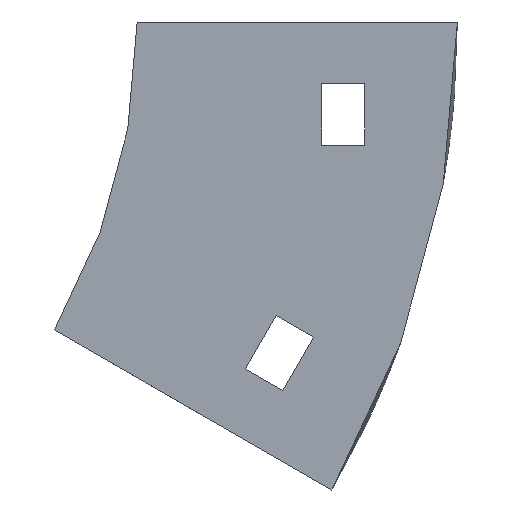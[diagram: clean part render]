
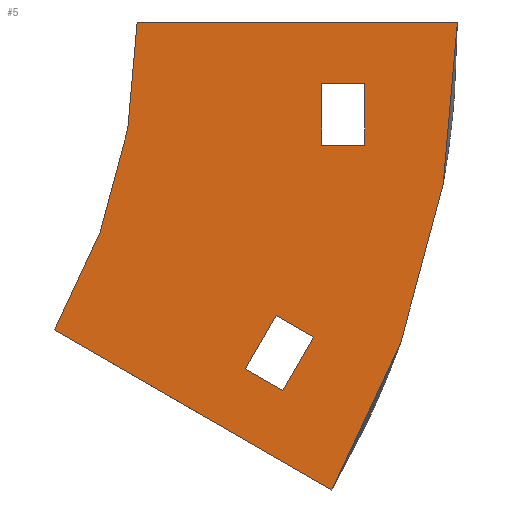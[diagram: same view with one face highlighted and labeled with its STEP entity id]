
A CAD part, left-side view. The second image highlights one B-rep face of the part: STEP entity #5.
In plain terms, the highlighted planar face has unit normal (-1, 0, 0).
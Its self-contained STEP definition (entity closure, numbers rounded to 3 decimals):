
#1 = CARTESIAN_POINT ( 'NONE',  ( -252., -30., -10. ) ) ;
#2 = ORIENTED_EDGE ( 'NONE', *, *, #117, .F. ) ;
#5 = ADVANCED_FACE ( 'NONE', ( #610, #500, #43 ), #668, .F. ) ;
#10 = VECTOR ( 'NONE', #1139, 1000. ) ;
#29 = VECTOR ( 'NONE', #903, 1000. ) ;
#32 = EDGE_CURVE ( 'NONE', #787, #682, #828, .T. ) ;
#43 = FACE_BOUND ( 'NONE', #523, .T. ) ;
#58 = VERTEX_POINT ( 'NONE', #617 ) ;
#117 = EDGE_CURVE ( 'NONE', #263, #702, #268, .T. ) ;
#144 = VERTEX_POINT ( 'NONE', #497 ) ;
#165 = DIRECTION ( 'NONE',  ( 0., 0., -1. ) ) ;
#182 = ORIENTED_EDGE ( 'NONE', *, *, #1100, .F. ) ;
#196 = LINE ( 'NONE', #559, #29 ) ;
#212 = VECTOR ( 'NONE', #714, 1000. ) ;
#217 = DIRECTION ( 'NONE',  ( 0., 0., 1. ) ) ;
#223 = DIRECTION ( 'NONE',  ( 0., -0.866, -0.5 ) ) ;
#228 = CARTESIAN_POINT ( 'NONE',  ( -252., -17.583, -56.34 ) ) ;
#236 = VERTEX_POINT ( 'NONE', #675 ) ;
#241 = LINE ( 'NONE', #228, #821 ) ;
#248 = CARTESIAN_POINT ( 'NONE',  ( -252., 13.397, -50. ) ) ;
#263 = VERTEX_POINT ( 'NONE', #707 ) ;
#268 = CIRCLE ( 'NONE', #911, 100. ) ;
#313 = EDGE_CURVE ( 'NONE', #978, #436, #800, .T. ) ;
#320 = EDGE_CURVE ( 'NONE', #702, #144, #378, .T. ) ;
#324 = ORIENTED_EDGE ( 'NONE', *, *, #32, .T. ) ;
#327 = EDGE_CURVE ( 'NONE', #436, #236, #196, .T. ) ;
#340 = DIRECTION ( 'NONE',  ( 0., 0., -1. ) ) ;
#341 = CARTESIAN_POINT ( 'NONE',  ( -252., -31.636, -76. ) ) ;
#349 = CARTESIAN_POINT ( 'NONE',  ( -252., -30., -10. ) ) ;
#351 = ORIENTED_EDGE ( 'NONE', *, *, #520, .T. ) ;
#367 = EDGE_CURVE ( 'NONE', #144, #741, #1012, .T. ) ;
#378 = LINE ( 'NONE', #723, #387 ) ;
#386 = VECTOR ( 'NONE', #697, 1000. ) ;
#387 = VECTOR ( 'NONE', #1084, 1000. ) ;
#436 = VERTEX_POINT ( 'NONE', #1061 ) ;
#437 = LINE ( 'NONE', #1143, #736 ) ;
#458 = LINE ( 'NONE', #725, #212 ) ;
#463 = AXIS2_PLACEMENT_3D ( 'NONE', #495, #960, #165 ) ;
#470 = CARTESIAN_POINT ( 'NONE',  ( -252., -23.645, -59.84 ) ) ;
#471 = DIRECTION ( 'NONE',  ( 0., 0.866, 0.5 ) ) ;
#472 = CARTESIAN_POINT ( 'NONE',  ( -252., -30., -20. ) ) ;
#484 = LINE ( 'NONE', #640, #870 ) ;
#495 = CARTESIAN_POINT ( 'NONE',  ( -252., 100., 0. ) ) ;
#497 = CARTESIAN_POINT ( 'NONE',  ( -252., -52., 0. ) ) ;
#499 = ORIENTED_EDGE ( 'NONE', *, *, #327, .F. ) ;
#500 = FACE_BOUND ( 'NONE', #735, .T. ) ;
#509 = CARTESIAN_POINT ( 'NONE',  ( -252., 0., 0. ) ) ;
#511 = ORIENTED_EDGE ( 'NONE', *, *, #320, .F. ) ;
#520 = EDGE_CURVE ( 'NONE', #682, #58, #458, .T. ) ;
#521 = CARTESIAN_POINT ( 'NONE',  ( -252., -37., -10. ) ) ;
#523 = EDGE_LOOP ( 'NONE', ( #1006, #499, #676, #632 ) ) ;
#556 = VECTOR ( 'NONE', #980, 1000. ) ;
#559 = CARTESIAN_POINT ( 'NONE',  ( -252., -17.583, -56.34 ) ) ;
#566 = VERTEX_POINT ( 'NONE', #472 ) ;
#569 = VECTOR ( 'NONE', #471, 1000. ) ;
#580 = VERTEX_POINT ( 'NONE', #653 ) ;
#593 = DIRECTION ( 'NONE',  ( 1., 0., 0. ) ) ;
#610 = FACE_OUTER_BOUND ( 'NONE', #899, .T. ) ;
#617 = CARTESIAN_POINT ( 'NONE',  ( -252., -37., -20. ) ) ;
#628 = LINE ( 'NONE', #470, #556 ) ;
#632 = ORIENTED_EDGE ( 'NONE', *, *, #1142, .F. ) ;
#640 = CARTESIAN_POINT ( 'NONE',  ( -252., -30., -10. ) ) ;
#653 = CARTESIAN_POINT ( 'NONE',  ( -252., -23.645, -59.84 ) ) ;
#660 = EDGE_CURVE ( 'NONE', #58, #566, #437, .T. ) ;
#668 = PLANE ( 'NONE',  #463 ) ;
#675 = CARTESIAN_POINT ( 'NONE',  ( -252., -17.583, -56.34 ) ) ;
#676 = ORIENTED_EDGE ( 'NONE', *, *, #313, .F. ) ;
#682 = VERTEX_POINT ( 'NONE', #521 ) ;
#697 = DIRECTION ( 'NONE',  ( 0., -1., 0. ) ) ;
#702 = VERTEX_POINT ( 'NONE', #509 ) ;
#707 = CARTESIAN_POINT ( 'NONE',  ( -252., 13.397, -50. ) ) ;
#714 = DIRECTION ( 'NONE',  ( 0., 0., -1. ) ) ;
#720 = EDGE_CURVE ( 'NONE', #236, #580, #241, .T. ) ;
#723 = CARTESIAN_POINT ( 'NONE',  ( -252., -52., 0. ) ) ;
#725 = CARTESIAN_POINT ( 'NONE',  ( -252., -37., -10. ) ) ;
#735 = EDGE_LOOP ( 'NONE', ( #738, #324, #351, #986 ) ) ;
#736 = VECTOR ( 'NONE', #761, 1000. ) ;
#738 = ORIENTED_EDGE ( 'NONE', *, *, #907, .T. ) ;
#741 = VERTEX_POINT ( 'NONE', #341 ) ;
#753 = CARTESIAN_POINT ( 'NONE',  ( -252., -28.645, -51.179 ) ) ;
#761 = DIRECTION ( 'NONE',  ( 0., 1., 0. ) ) ;
#787 = VERTEX_POINT ( 'NONE', #1 ) ;
#788 = CARTESIAN_POINT ( 'NONE',  ( -252., -22.583, -47.679 ) ) ;
#800 = LINE ( 'NONE', #788, #569 ) ;
#821 = VECTOR ( 'NONE', #223, 1000. ) ;
#828 = LINE ( 'NONE', #349, #386 ) ;
#845 = CARTESIAN_POINT ( 'NONE',  ( -252., 100., 0. ) ) ;
#870 = VECTOR ( 'NONE', #217, 1000. ) ;
#899 = EDGE_LOOP ( 'NONE', ( #2, #182, #1138, #511 ) ) ;
#903 = DIRECTION ( 'NONE',  ( 0., 0.5, -0.866 ) ) ;
#907 = EDGE_CURVE ( 'NONE', #566, #787, #484, .T. ) ;
#911 = AXIS2_PLACEMENT_3D ( 'NONE', #1023, #1096, #1009 ) ;
#960 = DIRECTION ( 'NONE',  ( 1., 0., 0. ) ) ;
#975 = LINE ( 'NONE', #248, #10 ) ;
#978 = VERTEX_POINT ( 'NONE', #753 ) ;
#980 = DIRECTION ( 'NONE',  ( 0., -0.5, 0.866 ) ) ;
#986 = ORIENTED_EDGE ( 'NONE', *, *, #660, .T. ) ;
#1006 = ORIENTED_EDGE ( 'NONE', *, *, #720, .F. ) ;
#1009 = DIRECTION ( 'NONE',  ( 0., 0., -1. ) ) ;
#1012 = CIRCLE ( 'NONE', #1028, 152. ) ;
#1023 = CARTESIAN_POINT ( 'NONE',  ( -252., 100., 0. ) ) ;
#1028 = AXIS2_PLACEMENT_3D ( 'NONE', #845, #593, #340 ) ;
#1061 = CARTESIAN_POINT ( 'NONE',  ( -252., -22.583, -47.679 ) ) ;
#1084 = DIRECTION ( 'NONE',  ( 0., -1., 0. ) ) ;
#1096 = DIRECTION ( 'NONE',  ( -1., 0., 0. ) ) ;
#1100 = EDGE_CURVE ( 'NONE', #741, #263, #975, .T. ) ;
#1138 = ORIENTED_EDGE ( 'NONE', *, *, #367, .F. ) ;
#1139 = DIRECTION ( 'NONE',  ( 0., 0.866, 0.5 ) ) ;
#1142 = EDGE_CURVE ( 'NONE', #580, #978, #628, .T. ) ;
#1143 = CARTESIAN_POINT ( 'NONE',  ( -252., -30., -20. ) ) ;
